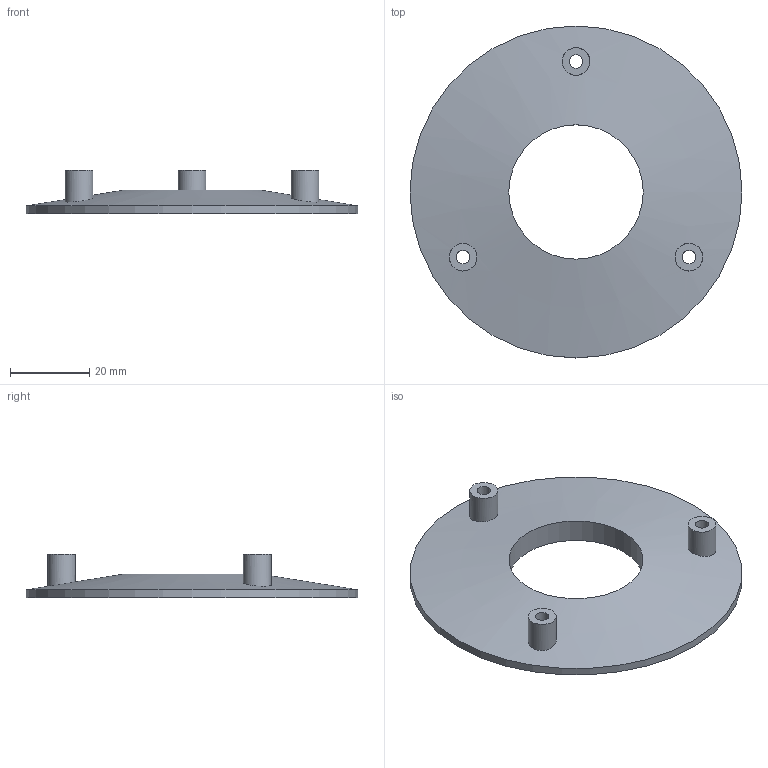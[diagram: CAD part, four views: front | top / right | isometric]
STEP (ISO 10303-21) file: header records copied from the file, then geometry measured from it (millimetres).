
FILE_DESCRIPTION(('Open CASCADE Model'),'2;1');
FILE_NAME('Open CASCADE Shape Model','2026-10-18T06:41:05',('Author'),( 'Open CASCADE'),'Open CASCADE STEP processor 7.9','Open CASCADE 7.9' ,'Unknown');
FILE_SCHEMA(('AUTOMOTIVE_DESIGN { 1 0 10303 214 1 1 1 1 }'));
Length unit declared in the file: millimetre
Products named in the file (1): Open CASCADE STEP translator 7.9 7
Bounding box: 84 x 84 x 11 mm (x, y, z)
Volume: 17800.5 mm3; surface area: 11291.6 mm2
Topology: 1 solids, 1 shells, 13 faces, 25 edges, 16 vertices
Faces by surface type: cylinder 8, plane 4, cone 1
Full cylindrical faces by diameter (mm): 3.4 x3, 7 x3, 34 x1, 84 x1
Entity records: 2091 total; most frequent: CARTESIAN_POINT 1545, DIRECTION 101, ORIENTED_EDGE 50, PCURVE 50, DEFINITIONAL_REPRESENTATION 50, LINE 42, VECTOR 42, AXIS2_PLACEMENT_3D 27
